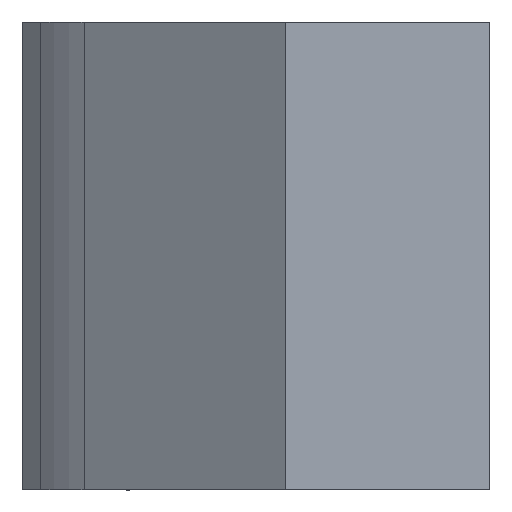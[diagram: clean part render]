
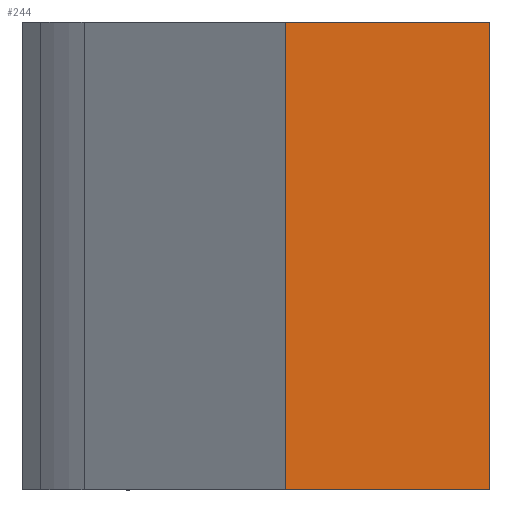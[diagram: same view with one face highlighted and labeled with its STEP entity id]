
A CAD part, front view. The second image highlights one B-rep face of the part: STEP entity #244.
In plain terms, the highlighted planar face has unit normal (0, -1, 0).
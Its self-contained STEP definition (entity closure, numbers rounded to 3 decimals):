
#208=AXIS2_PLACEMENT_3D('Plane Axis2P3D',#205,#206,#207) ;
#205=CARTESIAN_POINT('Axis2P3D Location',(2.,-12.,0.)) ;
#210=CARTESIAN_POINT('Line Origine',(2.,-12.,8.)) ;
#214=CARTESIAN_POINT('Vertex',(2.,-12.,0.)) ;
#216=CARTESIAN_POINT('Vertex',(2.,-12.,16.)) ;
#219=CARTESIAN_POINT('Line Origine',(5.5,-12.,0.)) ;
#223=CARTESIAN_POINT('Vertex',(9.,-12.,0.)) ;
#226=CARTESIAN_POINT('Line Origine',(9.,-12.,8.)) ;
#230=CARTESIAN_POINT('Vertex',(9.,-12.,16.)) ;
#233=CARTESIAN_POINT('Line Origine',(5.5,-12.,16.)) ;
#206=DIRECTION('Axis2P3D Direction',(0.,-1.,0.)) ;
#207=DIRECTION('Axis2P3D XDirection',(1.,0.,0.)) ;
#211=DIRECTION('Vector Direction',(0.,0.,1.)) ;
#220=DIRECTION('Vector Direction',(1.,0.,0.)) ;
#227=DIRECTION('Vector Direction',(0.,0.,1.)) ;
#234=DIRECTION('Vector Direction',(1.,0.,0.)) ;
#212=VECTOR('Line Direction',#211,1.) ;
#221=VECTOR('Line Direction',#220,1.) ;
#228=VECTOR('Line Direction',#227,1.) ;
#235=VECTOR('Line Direction',#234,1.) ;
#239=ORIENTED_EDGE('',*,*,#218,.F.) ;
#240=ORIENTED_EDGE('',*,*,#225,.T.) ;
#241=ORIENTED_EDGE('',*,*,#232,.T.) ;
#242=ORIENTED_EDGE('',*,*,#237,.F.) ;
#244=ADVANCED_FACE('PartBody',(#243),#209,.T.) ;
#218=EDGE_CURVE('',#215,#217,#213,.T.) ;
#225=EDGE_CURVE('',#215,#224,#222,.T.) ;
#232=EDGE_CURVE('',#224,#231,#229,.T.) ;
#237=EDGE_CURVE('',#217,#231,#236,.T.) ;
#238=EDGE_LOOP('',(#239,#240,#241,#242)) ;
#243=FACE_OUTER_BOUND('',#238,.T.) ;
#213=LINE('Line',#210,#212) ;
#222=LINE('Line',#219,#221) ;
#229=LINE('Line',#226,#228) ;
#236=LINE('Line',#233,#235) ;
#209=PLANE('',#208) ;
#215=VERTEX_POINT('',#214) ;
#217=VERTEX_POINT('',#216) ;
#224=VERTEX_POINT('',#223) ;
#231=VERTEX_POINT('',#230) ;
